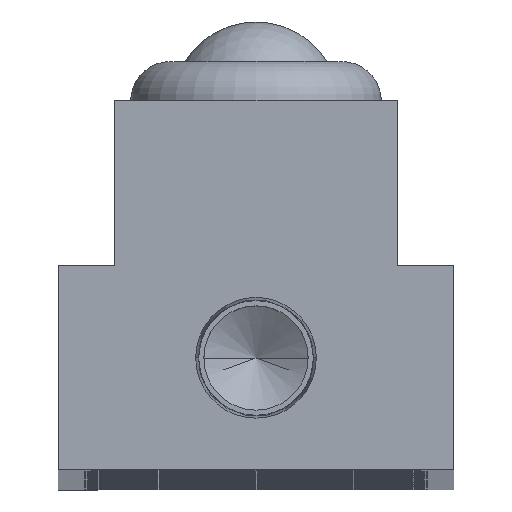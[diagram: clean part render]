
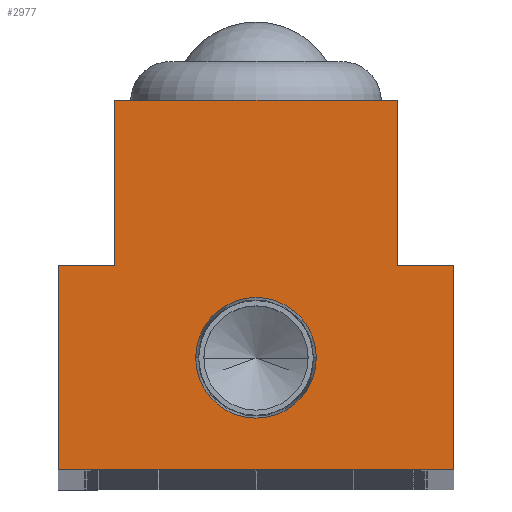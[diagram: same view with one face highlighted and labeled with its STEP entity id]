
A CAD part, top view. The second image highlights one B-rep face of the part: STEP entity #2977.
In plain terms, the highlighted planar face has unit normal (0, 0, 1).
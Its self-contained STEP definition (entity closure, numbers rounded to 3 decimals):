
#118 = ORIENTED_EDGE ( 'NONE', *, *, #17449, .T. ) ;
#313 = VECTOR ( 'NONE', #24102, 1000. ) ;
#920 = VERTEX_POINT ( 'NONE', #22318 ) ;
#974 = EDGE_LOOP ( 'NONE', ( #24193, #21861, #18652, #5888, #9356, #118, #15575, #20233 ) ) ;
#1033 = ORIENTED_EDGE ( 'NONE', *, *, #15574, .F. ) ;
#1361 = DIRECTION ( 'NONE',  ( 0., 1., 0. ) ) ;
#1365 = CARTESIAN_POINT ( 'NONE',  ( 15., 0., 0. ) ) ;
#1401 = CARTESIAN_POINT ( 'NONE',  ( 0., 8.5, 0. ) ) ;
#1511 = CARTESIAN_POINT ( 'NONE',  ( 15., 15.5, 0. ) ) ;
#1570 = LINE ( 'NONE', #6345, #15238 ) ;
#2977 = ADVANCED_FACE ( 'NONE', ( #5436, #10395 ), #4982, .T. ) ;
#3180 = DIRECTION ( 'NONE',  ( 0., 0., 1. ) ) ;
#3255 = DIRECTION ( 'NONE',  ( 1., 0., 0. ) ) ;
#3620 = CIRCLE ( 'NONE', #10360, 4.574 ) ;
#4384 = CARTESIAN_POINT ( 'NONE',  ( 10.7, 15.5, 0. ) ) ;
#4608 = CARTESIAN_POINT ( 'NONE',  ( 0., 8.5, 0. ) ) ;
#4785 = VECTOR ( 'NONE', #5966, 1000. ) ;
#4982 = PLANE ( 'NONE',  #11233 ) ;
#5436 = FACE_BOUND ( 'NONE', #13378, .T. ) ;
#5888 = ORIENTED_EDGE ( 'NONE', *, *, #5932, .T. ) ;
#5932 = EDGE_CURVE ( 'NONE', #17277, #15704, #11925, .T. ) ;
#5966 = DIRECTION ( 'NONE',  ( 0., -1., 0. ) ) ;
#6345 = CARTESIAN_POINT ( 'NONE',  ( -10.7, 28., 0. ) ) ;
#6485 = DIRECTION ( 'NONE',  ( 1., 0., 0. ) ) ;
#8169 = CARTESIAN_POINT ( 'NONE',  ( 15., 0., 0. ) ) ;
#8620 = EDGE_CURVE ( 'NONE', #13921, #21143, #19743, .T. ) ;
#9356 = ORIENTED_EDGE ( 'NONE', *, *, #10894, .T. ) ;
#9931 = DIRECTION ( 'NONE',  ( -1., 0., 0. ) ) ;
#10253 = VECTOR ( 'NONE', #20088, 1000. ) ;
#10360 = AXIS2_PLACEMENT_3D ( 'NONE', #1401, #14405, #3255 ) ;
#10395 = FACE_OUTER_BOUND ( 'NONE', #974, .T. ) ;
#10557 = VERTEX_POINT ( 'NONE', #19311 ) ;
#10647 = CARTESIAN_POINT ( 'NONE',  ( 10.7, 28., 0. ) ) ;
#10815 = VECTOR ( 'NONE', #1361, 1000. ) ;
#10894 = EDGE_CURVE ( 'NONE', #15704, #13221, #14669, .T. ) ;
#11233 = AXIS2_PLACEMENT_3D ( 'NONE', #23657, #3180, #16200 ) ;
#11475 = LINE ( 'NONE', #4384, #21983 ) ;
#11571 = CIRCLE ( 'NONE', #19778, 4.574 ) ;
#11610 = VECTOR ( 'NONE', #21820, 1000. ) ;
#11925 = LINE ( 'NONE', #20315, #313 ) ;
#12482 = VERTEX_POINT ( 'NONE', #16999 ) ;
#12638 = EDGE_CURVE ( 'NONE', #10557, #20168, #11571, .T. ) ;
#13221 = VERTEX_POINT ( 'NONE', #19632 ) ;
#13378 = EDGE_LOOP ( 'NONE', ( #1033, #22933 ) ) ;
#13921 = VERTEX_POINT ( 'NONE', #8169 ) ;
#14405 = DIRECTION ( 'NONE',  ( 0., 0., 1. ) ) ;
#14603 = CARTESIAN_POINT ( 'NONE',  ( -10.7, 28., 0. ) ) ;
#14623 = VERTEX_POINT ( 'NONE', #14603 ) ;
#14669 = LINE ( 'NONE', #15298, #4785 ) ;
#15107 = VECTOR ( 'NONE', #9931, 1000. ) ;
#15238 = VECTOR ( 'NONE', #23144, 1000. ) ;
#15298 = CARTESIAN_POINT ( 'NONE',  ( -15., 0., 0. ) ) ;
#15523 = DIRECTION ( 'NONE',  ( -1., 0., 0. ) ) ;
#15574 = EDGE_CURVE ( 'NONE', #20168, #10557, #3620, .T. ) ;
#15575 = ORIENTED_EDGE ( 'NONE', *, *, #8620, .T. ) ;
#15704 = VERTEX_POINT ( 'NONE', #20358 ) ;
#15916 = EDGE_CURVE ( 'NONE', #21143, #920, #11475, .T. ) ;
#15982 = EDGE_CURVE ( 'NONE', #14623, #17277, #1570, .T. ) ;
#16200 = DIRECTION ( 'NONE',  ( 1., 0., 0. ) ) ;
#16999 = CARTESIAN_POINT ( 'NONE',  ( 10.7, 28., 0. ) ) ;
#17277 = VERTEX_POINT ( 'NONE', #19766 ) ;
#17371 = EDGE_CURVE ( 'NONE', #920, #12482, #20717, .T. ) ;
#17449 = EDGE_CURVE ( 'NONE', #13221, #13921, #20134, .T. ) ;
#17626 = DIRECTION ( 'NONE',  ( 0., 0., 1. ) ) ;
#18652 = ORIENTED_EDGE ( 'NONE', *, *, #15982, .T. ) ;
#19311 = CARTESIAN_POINT ( 'NONE',  ( -4.574, 8.5, 0. ) ) ;
#19497 = LINE ( 'NONE', #21061, #15107 ) ;
#19632 = CARTESIAN_POINT ( 'NONE',  ( -15., 0., 0. ) ) ;
#19743 = LINE ( 'NONE', #1365, #11610 ) ;
#19766 = CARTESIAN_POINT ( 'NONE',  ( -10.7, 15.5, 0. ) ) ;
#19778 = AXIS2_PLACEMENT_3D ( 'NONE', #4608, #17626, #6485 ) ;
#20088 = DIRECTION ( 'NONE',  ( 1., 0., 0. ) ) ;
#20134 = LINE ( 'NONE', #21895, #10253 ) ;
#20168 = VERTEX_POINT ( 'NONE', #22173 ) ;
#20233 = ORIENTED_EDGE ( 'NONE', *, *, #15916, .T. ) ;
#20315 = CARTESIAN_POINT ( 'NONE',  ( -10.7, 15.5, 0. ) ) ;
#20358 = CARTESIAN_POINT ( 'NONE',  ( -15., 15.5, 0. ) ) ;
#20717 = LINE ( 'NONE', #10647, #10815 ) ;
#21061 = CARTESIAN_POINT ( 'NONE',  ( -10.7, 28., 0. ) ) ;
#21143 = VERTEX_POINT ( 'NONE', #1511 ) ;
#21820 = DIRECTION ( 'NONE',  ( 0., 1., 0. ) ) ;
#21861 = ORIENTED_EDGE ( 'NONE', *, *, #22773, .T. ) ;
#21895 = CARTESIAN_POINT ( 'NONE',  ( 15., 0., 0. ) ) ;
#21983 = VECTOR ( 'NONE', #15523, 1000. ) ;
#22173 = CARTESIAN_POINT ( 'NONE',  ( 4.574, 8.5, 0. ) ) ;
#22318 = CARTESIAN_POINT ( 'NONE',  ( 10.7, 15.5, 0. ) ) ;
#22773 = EDGE_CURVE ( 'NONE', #12482, #14623, #19497, .T. ) ;
#22933 = ORIENTED_EDGE ( 'NONE', *, *, #12638, .F. ) ;
#23144 = DIRECTION ( 'NONE',  ( 0., -1., 0. ) ) ;
#23657 = CARTESIAN_POINT ( 'NONE',  ( 0., 0., 0. ) ) ;
#24102 = DIRECTION ( 'NONE',  ( -1., 0., 0. ) ) ;
#24193 = ORIENTED_EDGE ( 'NONE', *, *, #17371, .T. ) ;
